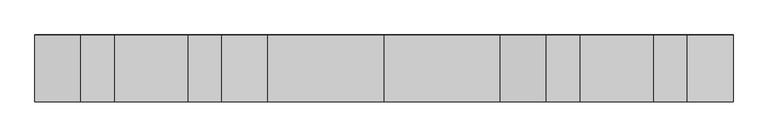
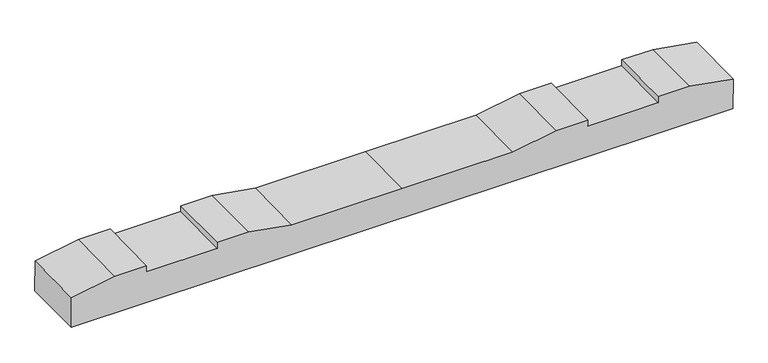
"""IFC4 building model written with IfcOpenShell, lengths in millimetres: proxy geometry, 轨枕-立面角度 : 轨枕-立面角度."""

from ifc_helpers import new_model, si_unit, frame, origin, place, context, project, spatial, polyline, outline, extrude, source, transform, mapped, element, save


def generic_models_1a4d9871(model_context):
    return source(origin(), model_context, "Body", "SweptSolid", [
        extrude(outline(polyline([(0.0, 0.0), (2099.7669328, 0.0), (2099.7669328, -100.020689), (1961.8834664, -124.5000001), (1861.8834664, -124.5000001), (1861.8834664, -104.5), (1637.8834664, -104.5), (1637.8834664, -124.5000001), (1537.8834664, -124.5000001), (1399.8834664, -100.0), (1049.8834664, -100.0), (699.8834664, -100.0), (561.8834664, -124.5000001), (461.8834664, -124.5000001), (461.8834664, -104.5), (237.8834664, -104.5), (237.8834664, -124.5000001), (137.8834664, -124.5000001), (0.0, -100.020689), (0.0, 0.0)])), frame((-1049.8834664, -98.7709434, -105.6624377), z_axis=(0.0, 0.9999316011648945, 0.011695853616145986), x_axis=(1.0, 0.0, 0.0)), (0.0, 0.0, 1.0), 200.0),
    ])


if __name__ == "__main__":
    model = new_model("IFC4")
    model_context = context("Model", 3, world=origin())
    ifc_project = project(units=[si_unit("LENGTHUNIT", "METRE", prefix="MILLI")], contexts=[model_context])
    site = spatial("IfcSite", under=ifc_project)
    building = spatial("IfcBuilding", under=site)
    placement = place(None, origin())
    generic_models_shape = generic_models_1a4d9871(model_context)
    element("IfcBuildingElementProxy", 1, Name="轨枕-立面角度 : 轨枕-立面角度", ObjectType="轨枕-立面角度 : 轨枕-立面角度", at=placement, inside=building, context=model_context, shape_type="MappedRepresentation", body=[
        mapped(generic_models_shape, transform((0.0, 0.0, 0.0), x_axis=(1.0, 0.0, 0.0), y_axis=(0.0, 1.0, 0.0), z_axis=(0.0, 0.0, 1.0))),
    ])
    save(model, "model.ifc")
